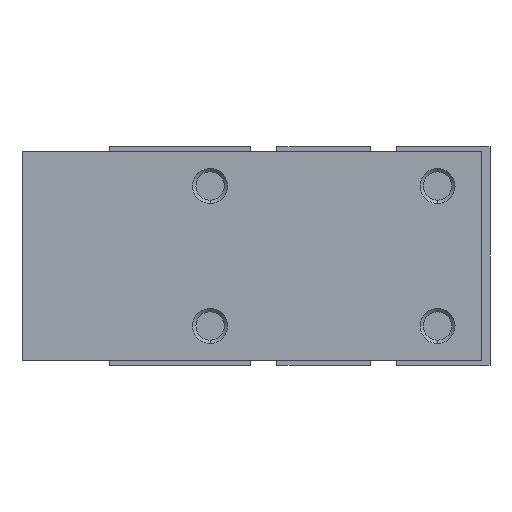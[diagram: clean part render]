
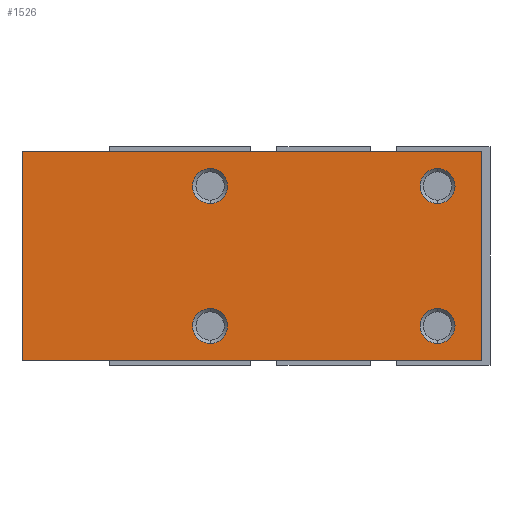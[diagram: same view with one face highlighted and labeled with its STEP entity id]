
A CAD part, left-side view. The second image highlights one B-rep face of the part: STEP entity #1526.
In plain terms, the highlighted planar face has unit normal (-1, 0, 0).
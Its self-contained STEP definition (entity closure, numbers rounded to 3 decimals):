
#18 = VERTEX_POINT ( 'NONE', #5459 ) ;
#62 = DIRECTION ( 'NONE',  ( 0., -1., 0. ) ) ;
#167 = VERTEX_POINT ( 'NONE', #475 ) ;
#178 = AXIS2_PLACEMENT_3D ( 'NONE', #3688, #462, #5504 ) ;
#195 = ORIENTED_EDGE ( 'NONE', *, *, #4499, .F. ) ;
#210 = DIRECTION ( 'NONE',  ( -1., 0., 0. ) ) ;
#211 = FACE_BOUND ( 'NONE', #5240, .T. ) ;
#299 = CIRCLE ( 'NONE', #2608, 2. ) ;
#305 = EDGE_CURVE ( 'NONE', #585, #3888, #2023, .T. ) ;
#347 = AXIS2_PLACEMENT_3D ( 'NONE', #5829, #3054, #4079 ) ;
#394 = ORIENTED_EDGE ( 'NONE', *, *, #3711, .T. ) ;
#451 = EDGE_CURVE ( 'NONE', #3282, #18, #299, .T. ) ;
#462 = DIRECTION ( 'NONE',  ( -1., 0., 0. ) ) ;
#475 = CARTESIAN_POINT ( 'NONE',  ( -14., -18., -12. ) ) ;
#585 = VERTEX_POINT ( 'NONE', #1930 ) ;
#632 = CIRCLE ( 'NONE', #1114, 2. ) ;
#634 = AXIS2_PLACEMENT_3D ( 'NONE', #750, #4519, #3938 ) ;
#639 = DIRECTION ( 'NONE',  ( 0., 0., 1. ) ) ;
#699 = DIRECTION ( 'NONE',  ( 0., 0., 1. ) ) ;
#730 = VERTEX_POINT ( 'NONE', #5174 ) ;
#732 = CIRCLE ( 'NONE', #347, 2. ) ;
#750 = CARTESIAN_POINT ( 'NONE',  ( -14., -13., 8. ) ) ;
#833 = CIRCLE ( 'NONE', #634, 2. ) ;
#870 = DIRECTION ( 'NONE',  ( 0., -1., 0. ) ) ;
#946 = CIRCLE ( 'NONE', #5548, 2. ) ;
#1110 = CARTESIAN_POINT ( 'NONE',  ( -14., 13., 8. ) ) ;
#1114 = AXIS2_PLACEMENT_3D ( 'NONE', #2934, #4757, #639 ) ;
#1249 = VERTEX_POINT ( 'NONE', #1708 ) ;
#1479 = VERTEX_POINT ( 'NONE', #1986 ) ;
#1499 = DIRECTION ( 'NONE',  ( 1., 0., 0. ) ) ;
#1526 = ADVANCED_FACE ( 'NONE', ( #5173, #4328, #211, #3371, #5260 ), #4360, .F. ) ;
#1530 = DIRECTION ( 'NONE',  ( -1., 0., 0. ) ) ;
#1607 = ORIENTED_EDGE ( 'NONE', *, *, #5168, .F. ) ;
#1609 = LINE ( 'NONE', #3871, #4254 ) ;
#1627 = CARTESIAN_POINT ( 'NONE',  ( -14., 34.5, -12. ) ) ;
#1708 = CARTESIAN_POINT ( 'NONE',  ( -14., -13., -10. ) ) ;
#1761 = VERTEX_POINT ( 'NONE', #3075 ) ;
#1806 = CARTESIAN_POINT ( 'NONE',  ( -14., 34.5, 12. ) ) ;
#1896 = CARTESIAN_POINT ( 'NONE',  ( -14., -13., 6. ) ) ;
#1924 = VERTEX_POINT ( 'NONE', #4763 ) ;
#1930 = CARTESIAN_POINT ( 'NONE',  ( -14., 34.5, 12. ) ) ;
#1986 = CARTESIAN_POINT ( 'NONE',  ( -14., 13., 6. ) ) ;
#1987 = VECTOR ( 'NONE', #870, 1000. ) ;
#2023 = LINE ( 'NONE', #3918, #2512 ) ;
#2044 = DIRECTION ( 'NONE',  ( 0., 0., 1. ) ) ;
#2084 = DIRECTION ( 'NONE',  ( -1., 0., 0. ) ) ;
#2142 = CARTESIAN_POINT ( 'NONE',  ( -14., 13., -8. ) ) ;
#2171 = ORIENTED_EDGE ( 'NONE', *, *, #2930, .F. ) ;
#2248 = EDGE_LOOP ( 'NONE', ( #2483, #5334 ) ) ;
#2261 = LINE ( 'NONE', #1806, #1987 ) ;
#2478 = ORIENTED_EDGE ( 'NONE', *, *, #3025, .F. ) ;
#2483 = ORIENTED_EDGE ( 'NONE', *, *, #3859, .F. ) ;
#2512 = VECTOR ( 'NONE', #4788, 1000. ) ;
#2525 = DIRECTION ( 'NONE',  ( 0., 1., 0. ) ) ;
#2608 = AXIS2_PLACEMENT_3D ( 'NONE', #2142, #5759, #3629 ) ;
#2858 = CIRCLE ( 'NONE', #4765, 2. ) ;
#2900 = EDGE_CURVE ( 'NONE', #1761, #1479, #2858, .T. ) ;
#2930 = EDGE_CURVE ( 'NONE', #1249, #1924, #5804, .T. ) ;
#2934 = CARTESIAN_POINT ( 'NONE',  ( -14., 13., 8. ) ) ;
#3025 = EDGE_CURVE ( 'NONE', #3895, #4820, #833, .T. ) ;
#3054 = DIRECTION ( 'NONE',  ( -1., 0., 0. ) ) ;
#3075 = CARTESIAN_POINT ( 'NONE',  ( -14., 13., 10. ) ) ;
#3282 = VERTEX_POINT ( 'NONE', #3395 ) ;
#3370 = DIRECTION ( 'NONE',  ( 0., 0., 1. ) ) ;
#3371 = FACE_BOUND ( 'NONE', #3875, .T. ) ;
#3384 = ORIENTED_EDGE ( 'NONE', *, *, #3477, .F. ) ;
#3395 = CARTESIAN_POINT ( 'NONE',  ( -14., 13., -10. ) ) ;
#3412 = CARTESIAN_POINT ( 'NONE',  ( -14., -13., -8. ) ) ;
#3477 = EDGE_CURVE ( 'NONE', #585, #730, #2261, .T. ) ;
#3535 = VECTOR ( 'NONE', #62, 1000. ) ;
#3544 = CIRCLE ( 'NONE', #178, 2. ) ;
#3629 = DIRECTION ( 'NONE',  ( 0., 0., 1. ) ) ;
#3676 = EDGE_CURVE ( 'NONE', #1924, #1249, #946, .T. ) ;
#3688 = CARTESIAN_POINT ( 'NONE',  ( -14., -13., 8. ) ) ;
#3703 = AXIS2_PLACEMENT_3D ( 'NONE', #4715, #1499, #2525 ) ;
#3711 = EDGE_CURVE ( 'NONE', #3888, #167, #4280, .T. ) ;
#3785 = EDGE_CURVE ( 'NONE', #1479, #1761, #632, .T. ) ;
#3859 = EDGE_CURVE ( 'NONE', #18, #3282, #732, .T. ) ;
#3871 = CARTESIAN_POINT ( 'NONE',  ( -14., -18., 12. ) ) ;
#3875 = EDGE_LOOP ( 'NONE', ( #4617, #2171 ) ) ;
#3888 = VERTEX_POINT ( 'NONE', #5422 ) ;
#3895 = VERTEX_POINT ( 'NONE', #4497 ) ;
#3918 = CARTESIAN_POINT ( 'NONE',  ( -14., 34.5, 12. ) ) ;
#3928 = ORIENTED_EDGE ( 'NONE', *, *, #3785, .F. ) ;
#3938 = DIRECTION ( 'NONE',  ( 0., 0., 1. ) ) ;
#4069 = ORIENTED_EDGE ( 'NONE', *, *, #305, .T. ) ;
#4079 = DIRECTION ( 'NONE',  ( 0., 0., 1. ) ) ;
#4254 = VECTOR ( 'NONE', #5687, 1000. ) ;
#4280 = LINE ( 'NONE', #1627, #3535 ) ;
#4327 = CARTESIAN_POINT ( 'NONE',  ( -14., -13., -8. ) ) ;
#4328 = FACE_BOUND ( 'NONE', #2248, .T. ) ;
#4360 = PLANE ( 'NONE',  #3703 ) ;
#4497 = CARTESIAN_POINT ( 'NONE',  ( -14., -13., 10. ) ) ;
#4499 = EDGE_CURVE ( 'NONE', #4820, #3895, #3544, .T. ) ;
#4519 = DIRECTION ( 'NONE',  ( -1., 0., 0. ) ) ;
#4617 = ORIENTED_EDGE ( 'NONE', *, *, #3676, .F. ) ;
#4715 = CARTESIAN_POINT ( 'NONE',  ( -14., 34.5, 12. ) ) ;
#4757 = DIRECTION ( 'NONE',  ( -1., 0., 0. ) ) ;
#4763 = CARTESIAN_POINT ( 'NONE',  ( -14., -13., -6. ) ) ;
#4765 = AXIS2_PLACEMENT_3D ( 'NONE', #1110, #1530, #3370 ) ;
#4788 = DIRECTION ( 'NONE',  ( 0., 0., -1. ) ) ;
#4820 = VERTEX_POINT ( 'NONE', #1896 ) ;
#5156 = AXIS2_PLACEMENT_3D ( 'NONE', #4327, #210, #2044 ) ;
#5168 = EDGE_CURVE ( 'NONE', #730, #167, #1609, .T. ) ;
#5173 = FACE_OUTER_BOUND ( 'NONE', #5571, .T. ) ;
#5174 = CARTESIAN_POINT ( 'NONE',  ( -14., -18., 12. ) ) ;
#5240 = EDGE_LOOP ( 'NONE', ( #2478, #195 ) ) ;
#5260 = FACE_BOUND ( 'NONE', #5268, .T. ) ;
#5268 = EDGE_LOOP ( 'NONE', ( #5863, #3928 ) ) ;
#5334 = ORIENTED_EDGE ( 'NONE', *, *, #451, .F. ) ;
#5422 = CARTESIAN_POINT ( 'NONE',  ( -14., 34.5, -12. ) ) ;
#5459 = CARTESIAN_POINT ( 'NONE',  ( -14., 13., -6. ) ) ;
#5504 = DIRECTION ( 'NONE',  ( 0., 0., 1. ) ) ;
#5548 = AXIS2_PLACEMENT_3D ( 'NONE', #3412, #2084, #699 ) ;
#5571 = EDGE_LOOP ( 'NONE', ( #394, #1607, #3384, #4069 ) ) ;
#5687 = DIRECTION ( 'NONE',  ( 0., 0., -1. ) ) ;
#5759 = DIRECTION ( 'NONE',  ( -1., 0., 0. ) ) ;
#5804 = CIRCLE ( 'NONE', #5156, 2. ) ;
#5829 = CARTESIAN_POINT ( 'NONE',  ( -14., 13., -8. ) ) ;
#5863 = ORIENTED_EDGE ( 'NONE', *, *, #2900, .F. ) ;
